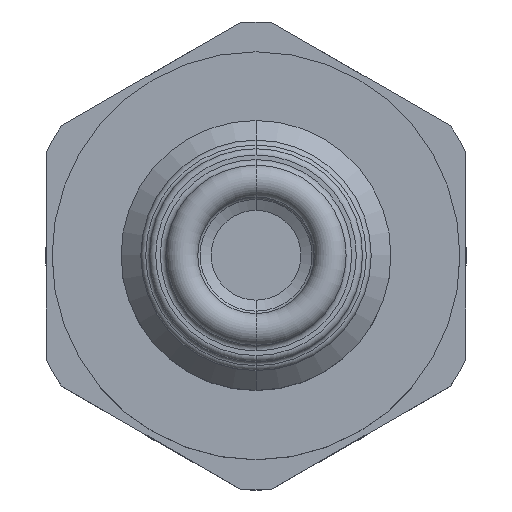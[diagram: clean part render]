
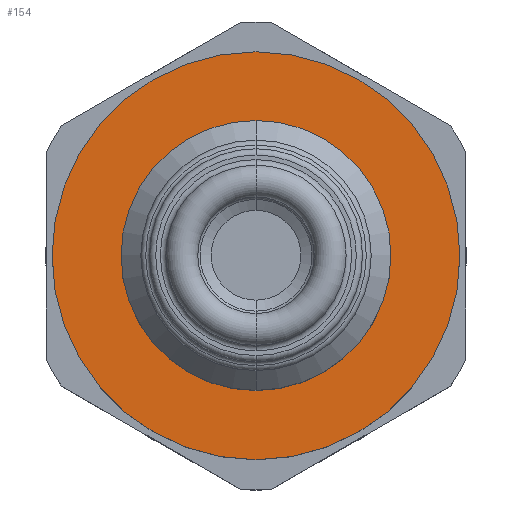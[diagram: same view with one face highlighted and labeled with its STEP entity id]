
A CAD part, top view. The second image highlights one B-rep face of the part: STEP entity #154.
In plain terms, the highlighted planar face has unit normal (0, 0, 1).
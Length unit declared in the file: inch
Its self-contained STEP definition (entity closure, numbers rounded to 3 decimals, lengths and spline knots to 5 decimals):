
#129 = EDGE_CURVE ( 'NONE', #419, #282, #799, .T. ) ;
#153 = EDGE_CURVE ( 'NONE', #282, #419, #809, .T. ) ;
#154 = ADVANCED_FACE ( 'NONE', ( #832, #858 ), #862, .T. ) ;
#155 = EDGE_LOOP ( 'NONE', ( #358, #359 ) ) ;
#240 = EDGE_CURVE ( 'NONE', #241, #242, #997, .T. ) ;
#241 = VERTEX_POINT ( 'NONE', #1024 ) ;
#242 = VERTEX_POINT ( 'NONE', #1023 ) ;
#282 = VERTEX_POINT ( 'NONE', #1192 ) ;
#358 = ORIENTED_EDGE ( 'NONE', *, *, #129, .T. ) ;
#359 = ORIENTED_EDGE ( 'NONE', *, *, #153, .T. ) ;
#360 = EDGE_LOOP ( 'NONE', ( #361, #362 ) ) ;
#361 = ORIENTED_EDGE ( 'NONE', *, *, #240, .F. ) ;
#362 = ORIENTED_EDGE ( 'NONE', *, *, #363, .F. ) ;
#363 = EDGE_CURVE ( 'NONE', #242, #241, #1204, .T. ) ;
#419 = VERTEX_POINT ( 'NONE', #1403 ) ;
#799 = CIRCLE ( 'NONE', #804, 0.425 ) ;
#801 = DIRECTION ( 'NONE',  ( 0., -1., 0. ) ) ;
#802 = DIRECTION ( 'NONE',  ( 0., 0., 1. ) ) ;
#803 = CARTESIAN_POINT ( 'NONE',  ( 0., 0., -0.633 ) ) ;
#804 = AXIS2_PLACEMENT_3D ( 'NONE', #803, #802, #801 ) ;
#809 = CIRCLE ( 'NONE', #857, 0.425 ) ;
#832 = FACE_OUTER_BOUND ( 'NONE', #155, .T. ) ;
#854 = DIRECTION ( 'NONE',  ( 0., -1., 0. ) ) ;
#855 = DIRECTION ( 'NONE',  ( 0., 0., 1. ) ) ;
#856 = CARTESIAN_POINT ( 'NONE',  ( 0., 0., -0.633 ) ) ;
#857 = AXIS2_PLACEMENT_3D ( 'NONE', #856, #855, #854 ) ;
#858 = FACE_BOUND ( 'NONE', #360, .T. ) ;
#859 = DIRECTION ( 'NONE',  ( 0., 0., 1. ) ) ;
#860 = CARTESIAN_POINT ( 'NONE',  ( 0., 0.2125, -0.633 ) ) ;
#861 = AXIS2_PLACEMENT_3D ( 'NONE', #860, #859, #864 ) ;
#862 = PLANE ( 'NONE',  #861 ) ;
#864 = DIRECTION ( 'NONE',  ( 0., -1., 0. ) ) ;
#993 = DIRECTION ( 'NONE',  ( 0., -1., 0. ) ) ;
#994 = DIRECTION ( 'NONE',  ( 0., 0., 1. ) ) ;
#995 = CARTESIAN_POINT ( 'NONE',  ( 0., 0., -0.633 ) ) ;
#996 = AXIS2_PLACEMENT_3D ( 'NONE', #995, #994, #993 ) ;
#997 = CIRCLE ( 'NONE', #996, 0.24 ) ;
#1023 = CARTESIAN_POINT ( 'NONE',  ( 0., 0.24, -0.633 ) ) ;
#1024 = CARTESIAN_POINT ( 'NONE',  ( 0., -0.24, -0.633 ) ) ;
#1192 = CARTESIAN_POINT ( 'NONE',  ( 0., 0.425, -0.633 ) ) ;
#1200 = DIRECTION ( 'NONE',  ( 0., -1., 0. ) ) ;
#1201 = DIRECTION ( 'NONE',  ( 0., 0., 1. ) ) ;
#1202 = CARTESIAN_POINT ( 'NONE',  ( 0., 0., -0.633 ) ) ;
#1203 = AXIS2_PLACEMENT_3D ( 'NONE', #1202, #1201, #1200 ) ;
#1204 = CIRCLE ( 'NONE', #1203, 0.24 ) ;
#1403 = CARTESIAN_POINT ( 'NONE',  ( 0., -0.425, -0.633 ) ) ;
